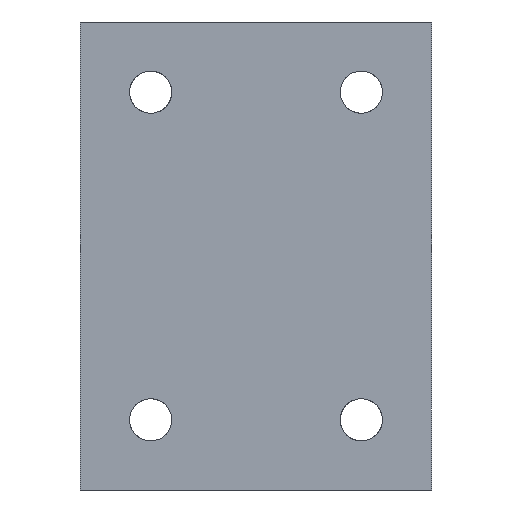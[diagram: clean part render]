
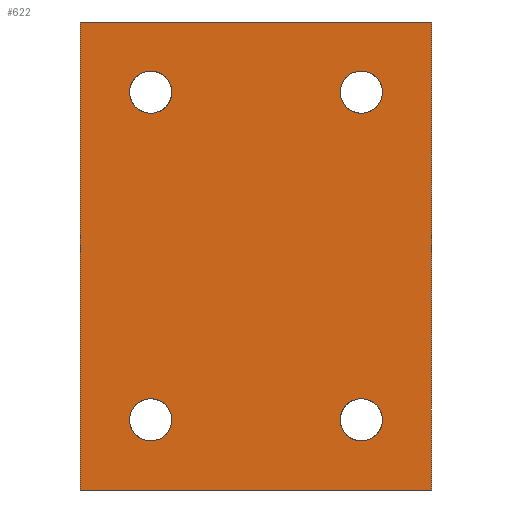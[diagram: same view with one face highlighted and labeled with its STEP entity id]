
A CAD part, front view. The second image highlights one B-rep face of the part: STEP entity #622.
In plain terms, the highlighted face is a extrusion surface.
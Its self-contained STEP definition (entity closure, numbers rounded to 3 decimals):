
#439=CARTESIAN_POINT('Control Point',(-75.,0.,0.)) ;
#440=CARTESIAN_POINT('Control Point',(-75.,0.,-100.)) ;
#444=CARTESIAN_POINT('Line Origine',(-37.5,0.,-100.)) ;
#448=CARTESIAN_POINT('Vertex',(-75.,0.,-100.)) ;
#450=CARTESIAN_POINT('Vertex',(0.,0.,-100.)) ;
#453=CARTESIAN_POINT('Line Origine',(0.,0.,-50.)) ;
#457=CARTESIAN_POINT('Vertex',(0.,0.,0.)) ;
#460=CARTESIAN_POINT('Line Origine',(-37.5,0.,0.)) ;
#464=CARTESIAN_POINT('Vertex',(-75.,0.,0.)) ;
#467=CARTESIAN_POINT('Line Origine',(-75.,0.,-50.)) ;
#479=CARTESIAN_POINT('Control Point',(-10.5,0.,-85.)) ;
#480=CARTESIAN_POINT('Control Point',(-10.5,0.,-86.247)) ;
#481=CARTESIAN_POINT('Control Point',(-10.932,0.,-87.494)) ;
#482=CARTESIAN_POINT('Control Point',(-11.8,0.,-88.539)) ;
#483=CARTESIAN_POINT('Control Point',(-13.71,0.,-89.63)) ;
#484=CARTESIAN_POINT('Control Point',(-15.841,0.,-89.54)) ;
#485=CARTESIAN_POINT('Control Point',(-16.671,0.,-89.305)) ;
#486=CARTESIAN_POINT('Control Point',(-18.085,0.,-88.511)) ;
#487=CARTESIAN_POINT('Control Point',(-19.032,0.,-87.204)) ;
#488=CARTESIAN_POINT('Control Point',(-19.344,0.,-86.498)) ;
#489=CARTESIAN_POINT('Control Point',(-19.5,0.,-85.749)) ;
#490=CARTESIAN_POINT('Control Point',(-19.5,0.,-85.)) ;
#491=CARTESIAN_POINT('Vertex',(-10.5,0.,-85.)) ;
#493=CARTESIAN_POINT('Vertex',(-19.5,0.,-85.)) ;
#497=CARTESIAN_POINT('Control Point',(-19.5,0.,-85.)) ;
#498=CARTESIAN_POINT('Control Point',(-19.5,0.,-83.753)) ;
#499=CARTESIAN_POINT('Control Point',(-19.068,0.,-82.506)) ;
#500=CARTESIAN_POINT('Control Point',(-18.2,0.,-81.461)) ;
#501=CARTESIAN_POINT('Control Point',(-16.29,0.,-80.37)) ;
#502=CARTESIAN_POINT('Control Point',(-14.159,0.,-80.46)) ;
#503=CARTESIAN_POINT('Control Point',(-13.329,0.,-80.695)) ;
#504=CARTESIAN_POINT('Control Point',(-11.915,0.,-81.489)) ;
#505=CARTESIAN_POINT('Control Point',(-10.968,0.,-82.796)) ;
#506=CARTESIAN_POINT('Control Point',(-10.656,0.,-83.502)) ;
#507=CARTESIAN_POINT('Control Point',(-10.5,0.,-84.251)) ;
#508=CARTESIAN_POINT('Control Point',(-10.5,0.,-85.)) ;
#515=CARTESIAN_POINT('Control Point',(-55.5,0.,-85.)) ;
#516=CARTESIAN_POINT('Control Point',(-55.5,0.,-86.247)) ;
#517=CARTESIAN_POINT('Control Point',(-55.932,0.,-87.494)) ;
#518=CARTESIAN_POINT('Control Point',(-56.8,0.,-88.539)) ;
#519=CARTESIAN_POINT('Control Point',(-58.71,0.,-89.63)) ;
#520=CARTESIAN_POINT('Control Point',(-60.841,0.,-89.54)) ;
#521=CARTESIAN_POINT('Control Point',(-61.671,0.,-89.305)) ;
#522=CARTESIAN_POINT('Control Point',(-63.085,0.,-88.511)) ;
#523=CARTESIAN_POINT('Control Point',(-64.032,0.,-87.204)) ;
#524=CARTESIAN_POINT('Control Point',(-64.344,0.,-86.498)) ;
#525=CARTESIAN_POINT('Control Point',(-64.5,0.,-85.749)) ;
#526=CARTESIAN_POINT('Control Point',(-64.5,0.,-85.)) ;
#527=CARTESIAN_POINT('Vertex',(-55.5,0.,-85.)) ;
#529=CARTESIAN_POINT('Vertex',(-64.5,0.,-85.)) ;
#533=CARTESIAN_POINT('Control Point',(-64.5,0.,-85.)) ;
#534=CARTESIAN_POINT('Control Point',(-64.5,0.,-83.753)) ;
#535=CARTESIAN_POINT('Control Point',(-64.068,0.,-82.506)) ;
#536=CARTESIAN_POINT('Control Point',(-63.2,0.,-81.461)) ;
#537=CARTESIAN_POINT('Control Point',(-61.29,0.,-80.37)) ;
#538=CARTESIAN_POINT('Control Point',(-59.159,0.,-80.46)) ;
#539=CARTESIAN_POINT('Control Point',(-58.329,0.,-80.695)) ;
#540=CARTESIAN_POINT('Control Point',(-56.915,0.,-81.489)) ;
#541=CARTESIAN_POINT('Control Point',(-55.968,0.,-82.796)) ;
#542=CARTESIAN_POINT('Control Point',(-55.656,0.,-83.502)) ;
#543=CARTESIAN_POINT('Control Point',(-55.5,0.,-84.251)) ;
#544=CARTESIAN_POINT('Control Point',(-55.5,0.,-85.)) ;
#551=CARTESIAN_POINT('Control Point',(-55.5,0.,-15.)) ;
#552=CARTESIAN_POINT('Control Point',(-55.5,0.,-16.247)) ;
#553=CARTESIAN_POINT('Control Point',(-55.932,0.,-17.494)) ;
#554=CARTESIAN_POINT('Control Point',(-56.8,0.,-18.539)) ;
#555=CARTESIAN_POINT('Control Point',(-58.71,0.,-19.63)) ;
#556=CARTESIAN_POINT('Control Point',(-60.841,0.,-19.54)) ;
#557=CARTESIAN_POINT('Control Point',(-61.671,0.,-19.305)) ;
#558=CARTESIAN_POINT('Control Point',(-63.085,0.,-18.511)) ;
#559=CARTESIAN_POINT('Control Point',(-64.032,0.,-17.204)) ;
#560=CARTESIAN_POINT('Control Point',(-64.344,0.,-16.498)) ;
#561=CARTESIAN_POINT('Control Point',(-64.5,0.,-15.749)) ;
#562=CARTESIAN_POINT('Control Point',(-64.5,0.,-15.)) ;
#563=CARTESIAN_POINT('Vertex',(-55.5,0.,-15.)) ;
#565=CARTESIAN_POINT('Vertex',(-64.5,0.,-15.)) ;
#569=CARTESIAN_POINT('Control Point',(-64.5,0.,-15.)) ;
#570=CARTESIAN_POINT('Control Point',(-64.5,0.,-13.753)) ;
#571=CARTESIAN_POINT('Control Point',(-64.068,0.,-12.506)) ;
#572=CARTESIAN_POINT('Control Point',(-63.2,0.,-11.461)) ;
#573=CARTESIAN_POINT('Control Point',(-61.29,0.,-10.37)) ;
#574=CARTESIAN_POINT('Control Point',(-59.159,0.,-10.46)) ;
#575=CARTESIAN_POINT('Control Point',(-58.329,0.,-10.695)) ;
#576=CARTESIAN_POINT('Control Point',(-56.915,0.,-11.489)) ;
#577=CARTESIAN_POINT('Control Point',(-55.968,0.,-12.796)) ;
#578=CARTESIAN_POINT('Control Point',(-55.656,0.,-13.502)) ;
#579=CARTESIAN_POINT('Control Point',(-55.5,0.,-14.251)) ;
#580=CARTESIAN_POINT('Control Point',(-55.5,0.,-15.)) ;
#587=CARTESIAN_POINT('Control Point',(-10.5,0.,-15.)) ;
#588=CARTESIAN_POINT('Control Point',(-10.5,0.,-16.247)) ;
#589=CARTESIAN_POINT('Control Point',(-10.932,0.,-17.494)) ;
#590=CARTESIAN_POINT('Control Point',(-11.8,0.,-18.539)) ;
#591=CARTESIAN_POINT('Control Point',(-13.71,0.,-19.63)) ;
#592=CARTESIAN_POINT('Control Point',(-15.841,0.,-19.54)) ;
#593=CARTESIAN_POINT('Control Point',(-16.671,0.,-19.305)) ;
#594=CARTESIAN_POINT('Control Point',(-18.085,0.,-18.511)) ;
#595=CARTESIAN_POINT('Control Point',(-19.032,0.,-17.204)) ;
#596=CARTESIAN_POINT('Control Point',(-19.344,0.,-16.498)) ;
#597=CARTESIAN_POINT('Control Point',(-19.5,0.,-15.749)) ;
#598=CARTESIAN_POINT('Control Point',(-19.5,0.,-15.)) ;
#599=CARTESIAN_POINT('Vertex',(-10.5,0.,-15.)) ;
#601=CARTESIAN_POINT('Vertex',(-19.5,0.,-15.)) ;
#605=CARTESIAN_POINT('Control Point',(-19.5,0.,-15.)) ;
#606=CARTESIAN_POINT('Control Point',(-19.5,0.,-13.753)) ;
#607=CARTESIAN_POINT('Control Point',(-19.068,0.,-12.506)) ;
#608=CARTESIAN_POINT('Control Point',(-18.2,0.,-11.461)) ;
#609=CARTESIAN_POINT('Control Point',(-16.29,0.,-10.37)) ;
#610=CARTESIAN_POINT('Control Point',(-14.159,0.,-10.46)) ;
#611=CARTESIAN_POINT('Control Point',(-13.329,0.,-10.695)) ;
#612=CARTESIAN_POINT('Control Point',(-11.915,0.,-11.489)) ;
#613=CARTESIAN_POINT('Control Point',(-10.968,0.,-12.796)) ;
#614=CARTESIAN_POINT('Control Point',(-10.656,0.,-13.502)) ;
#615=CARTESIAN_POINT('Control Point',(-10.5,0.,-14.251)) ;
#616=CARTESIAN_POINT('Control Point',(-10.5,0.,-15.)) ;
#441=DIRECTION('Vector Direction',(1.,0.,0.)) ;
#445=DIRECTION('Vector Direction',(1.,0.,0.)) ;
#454=DIRECTION('Vector Direction',(0.,0.,-1.)) ;
#461=DIRECTION('Vector Direction',(1.,0.,0.)) ;
#468=DIRECTION('Vector Direction',(0.,0.,-1.)) ;
#473=ORIENTED_EDGE('',*,*,#452,.T.) ;
#474=ORIENTED_EDGE('',*,*,#459,.T.) ;
#475=ORIENTED_EDGE('',*,*,#466,.T.) ;
#476=ORIENTED_EDGE('',*,*,#471,.T.) ;
#511=ORIENTED_EDGE('',*,*,#495,.T.) ;
#512=ORIENTED_EDGE('',*,*,#509,.T.) ;
#547=ORIENTED_EDGE('',*,*,#531,.T.) ;
#548=ORIENTED_EDGE('',*,*,#545,.T.) ;
#583=ORIENTED_EDGE('',*,*,#567,.T.) ;
#584=ORIENTED_EDGE('',*,*,#581,.T.) ;
#619=ORIENTED_EDGE('',*,*,#603,.T.) ;
#620=ORIENTED_EDGE('',*,*,#617,.T.) ;
#513=FACE_BOUND('',#510,.T.) ;
#549=FACE_BOUND('',#546,.T.) ;
#585=FACE_BOUND('',#582,.T.) ;
#621=FACE_BOUND('',#618,.T.) ;
#442=VECTOR('Extrusion Surface Vector',#441,1.) ;
#446=VECTOR('Line Direction',#445,1.) ;
#455=VECTOR('Line Direction',#454,1.) ;
#462=VECTOR('Line Direction',#461,1.) ;
#469=VECTOR('Line Direction',#468,1.) ;
#622=ADVANCED_FACE('Superficie.6',(#477,#513,#549,#585,#621),#443,.T.) ;
#438=B_SPLINE_CURVE_WITH_KNOTS('',1,(#439,#440),.UNSPECIFIED.,.F.,.U.,(2,2),(-50.,50.),.UNSPECIFIED.) ;
#478=B_SPLINE_CURVE_WITH_KNOTS('',5,(#479,#480,#481,#482,#483,#484,#485,#486,#487,#488,#489,#490),.UNSPECIFIED.,.F.,.U.,(6,3,3,6),(0.,8.818,14.697,19.993),.UNSPECIFIED.) ;
#496=B_SPLINE_CURVE_WITH_KNOTS('',5,(#497,#498,#499,#500,#501,#502,#503,#504,#505,#506,#507,#508),.UNSPECIFIED.,.F.,.U.,(6,3,3,6),(0.,8.818,14.697,19.993),.UNSPECIFIED.) ;
#514=B_SPLINE_CURVE_WITH_KNOTS('',5,(#515,#516,#517,#518,#519,#520,#521,#522,#523,#524,#525,#526),.UNSPECIFIED.,.F.,.U.,(6,3,3,6),(0.,8.818,14.697,19.993),.UNSPECIFIED.) ;
#532=B_SPLINE_CURVE_WITH_KNOTS('',5,(#533,#534,#535,#536,#537,#538,#539,#540,#541,#542,#543,#544),.UNSPECIFIED.,.F.,.U.,(6,3,3,6),(0.,8.818,14.697,19.993),.UNSPECIFIED.) ;
#550=B_SPLINE_CURVE_WITH_KNOTS('',5,(#551,#552,#553,#554,#555,#556,#557,#558,#559,#560,#561,#562),.UNSPECIFIED.,.F.,.U.,(6,3,3,6),(0.,8.818,14.697,19.993),.UNSPECIFIED.) ;
#568=B_SPLINE_CURVE_WITH_KNOTS('',5,(#569,#570,#571,#572,#573,#574,#575,#576,#577,#578,#579,#580),.UNSPECIFIED.,.F.,.U.,(6,3,3,6),(0.,8.818,14.697,19.993),.UNSPECIFIED.) ;
#586=B_SPLINE_CURVE_WITH_KNOTS('',5,(#587,#588,#589,#590,#591,#592,#593,#594,#595,#596,#597,#598),.UNSPECIFIED.,.F.,.U.,(6,3,3,6),(0.,8.818,14.697,19.993),.UNSPECIFIED.) ;
#604=B_SPLINE_CURVE_WITH_KNOTS('',5,(#605,#606,#607,#608,#609,#610,#611,#612,#613,#614,#615,#616),.UNSPECIFIED.,.F.,.U.,(6,3,3,6),(0.,8.818,14.697,19.993),.UNSPECIFIED.) ;
#452=EDGE_CURVE('',#449,#451,#447,.T.) ;
#459=EDGE_CURVE('',#451,#458,#456,.F.) ;
#466=EDGE_CURVE('',#458,#465,#463,.F.) ;
#471=EDGE_CURVE('',#465,#449,#470,.T.) ;
#495=EDGE_CURVE('',#492,#494,#478,.T.) ;
#509=EDGE_CURVE('',#494,#492,#496,.T.) ;
#531=EDGE_CURVE('',#528,#530,#514,.T.) ;
#545=EDGE_CURVE('',#530,#528,#532,.T.) ;
#567=EDGE_CURVE('',#564,#566,#550,.T.) ;
#581=EDGE_CURVE('',#566,#564,#568,.T.) ;
#603=EDGE_CURVE('',#600,#602,#586,.T.) ;
#617=EDGE_CURVE('',#602,#600,#604,.T.) ;
#472=EDGE_LOOP('',(#473,#474,#475,#476)) ;
#510=EDGE_LOOP('',(#511,#512)) ;
#546=EDGE_LOOP('',(#547,#548)) ;
#582=EDGE_LOOP('',(#583,#584)) ;
#618=EDGE_LOOP('',(#619,#620)) ;
#477=FACE_OUTER_BOUND('',#472,.T.) ;
#447=LINE('Line',#444,#446) ;
#456=LINE('Line',#453,#455) ;
#463=LINE('Line',#460,#462) ;
#470=LINE('Line',#467,#469) ;
#443=SURFACE_OF_LINEAR_EXTRUSION('generated tabulated cylinder',#438,#442) ;
#449=VERTEX_POINT('',#448) ;
#451=VERTEX_POINT('',#450) ;
#458=VERTEX_POINT('',#457) ;
#465=VERTEX_POINT('',#464) ;
#492=VERTEX_POINT('',#491) ;
#494=VERTEX_POINT('',#493) ;
#528=VERTEX_POINT('',#527) ;
#530=VERTEX_POINT('',#529) ;
#564=VERTEX_POINT('',#563) ;
#566=VERTEX_POINT('',#565) ;
#600=VERTEX_POINT('',#599) ;
#602=VERTEX_POINT('',#601) ;
